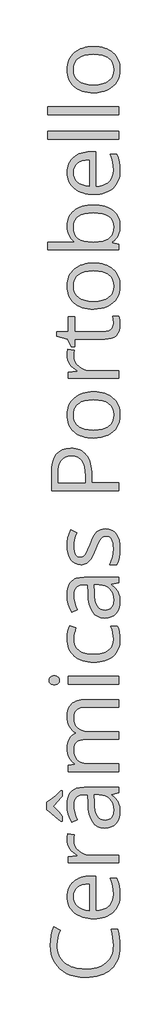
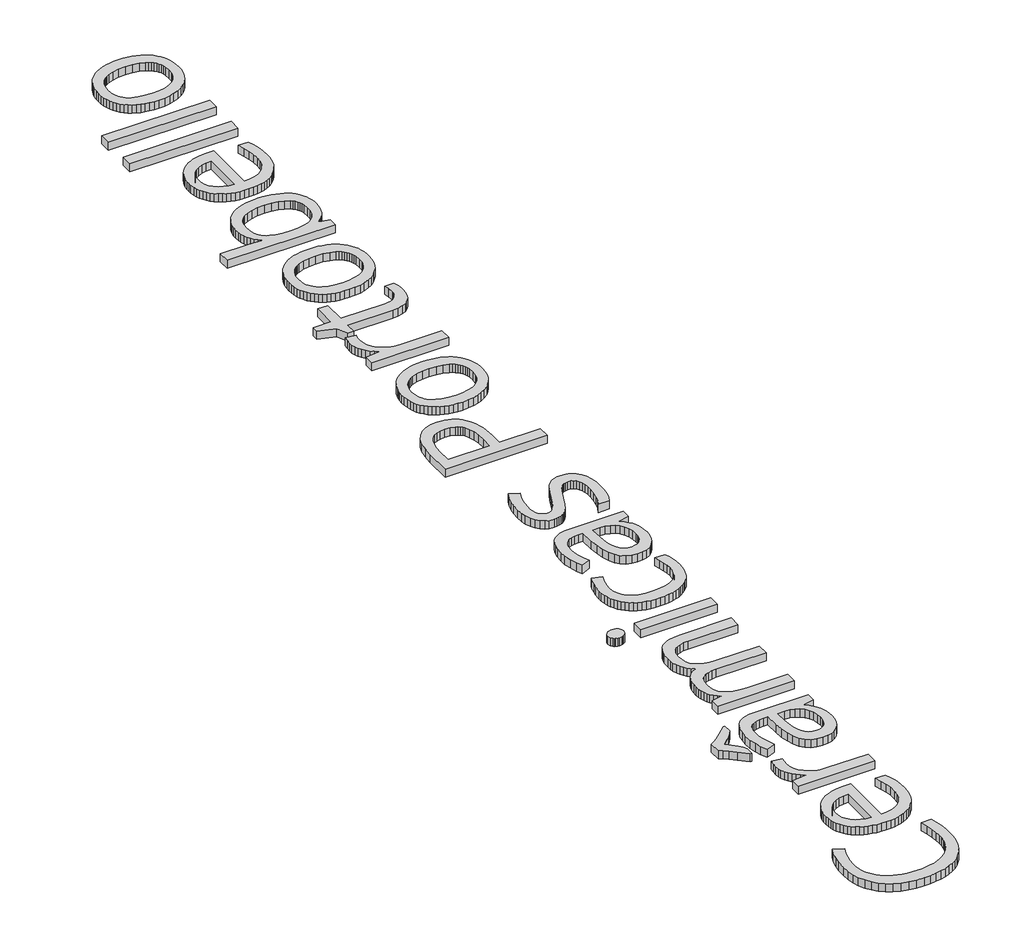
# One storey, part 2 of 3: 1 proxy.
"""IFC4 building model written with IfcOpenShell, lengths in millimetres."""

from ifc_helpers import new_model, si_unit, origin, origin_with_axes, place, context, project, spatial, polyline, outline, extrude, element, save

model = new_model("IFC4")

# Units and contexts
model_context = context("Model", 3, world=origin())
ifc_project = project(units=[si_unit("LENGTHUNIT", "METRE", prefix="MILLI")], contexts=[model_context])

# Site, building, storey
site = spatial("IfcSite", under=ifc_project)
building = spatial("IfcBuilding", under=site)
storey = spatial("IfcBuildingStorey", under=building, Name="PORTOBELLO - SHOWROOM", Elevation=0.0)

# Proxy
placement = place(None, origin())
element("IfcBuildingElementProxy", 1, Name="1200mm OpenSans", ObjectType="1200mm OpenSans", at=placement, inside=storey, context=model_context, shape_type="SweptSolid", body=[
    extrude(outline(polyline([(-25867.4892858, 8245.8483935), (-25865.3682385, 8197.6642832), (-25859.0050966, 8152.0828922), (-25848.3998601, 8109.1042207), (-25833.552529, 8068.7282685), (-25814.4631034, 8030.9550358), (-25791.1315831, 7995.7845224), (-25763.5579682, 7963.2167284), (-25731.7422587, 7933.2516538), (-25696.2365467, 7906.3794211), (-25657.592924, 7883.0901528), (-25615.8113907, 7863.3838488), (-25570.8919468, 7847.2605092), (-25522.8345922, 7834.7201339), (-25471.6393271, 7825.762723), (-25417.3061513, 7820.3882765), (-25359.835065, 7818.5967943), (-25300.8936112, 7820.3234902), (-25245.3942819, 7825.5035778), (-25193.3370773, 7834.1370572), (-25144.7219972, 7846.2239283), (-25099.5490416, 7861.7641912), (-25057.8182106, 7880.7578458), (-25019.5295042, 7903.2048922), (-24984.6829224, 7929.1053303), (-24953.6277478, 7958.200015), (-24926.7132632, 7990.2298009), (-24903.9394685, 8025.1946882), (-24885.3063637, 8063.0946768), (-24870.8139489, 8103.9297666), (-24860.4622241, 8147.6999578), (-24854.2511891, 8194.4052503), (-24852.1808442, 8244.0456441), (-24854.99764, 8309.1474305), (-24863.4480277, 8378.6208842), (-24877.5320071, 8452.466005), (-24897.2495783, 8530.682793), (-24780.4314195, 8530.682793), (-24761.3448106, 8464.6570975), (-24747.7115185, 8391.3302672), (-24739.5315433, 8310.7023019), (-24736.8048849, 8222.7732017), (-24739.342818, 8158.3249119), (-24746.9566172, 8097.6623958), (-24759.6462827, 8040.7856534), (-24777.4118143, 7987.6946846), (-24800.2532121, 7938.3894895), (-24828.1704761, 7892.8700681), (-24861.1636062, 7851.1364203), (-24899.2326026, 7813.1885462), (-24941.9774801, 7779.3869956), (-24988.9982537, 7750.0923185), (-25040.2949235, 7725.3045147), (-25095.8674894, 7705.0235844), (-25155.7159515, 7689.2495275), (-25219.8403097, 7677.9823439), (-25288.2405641, 7671.2220338), (-25360.9167146, 7668.9685971), (-25451.7527482, 7673.3064628), (-25536.774915, 7686.3200597), (-25615.9832152, 7708.009388), (-25689.3776487, 7738.3744476), (-25755.8202299, 7776.9307496), (-25814.1729734, 7823.1938052), (-25864.4358791, 7877.1636143), (-25906.608947, 7938.8401769), (-25939.9710774, 8007.2657824), (-25963.8011706, 8081.4827203), (-25978.0992265, 8161.4909905), (-25982.8652451, 8247.290593), (-25978.8766621, 8338.7801232), (-25966.9109132, 8424.3205805), (-25946.9679984, 8503.9119649), (-25919.0479176, 8577.5542764), (-25803.3114085, 8518.4240973), (-25831.3892298, 8450.2801714), (-25851.4448165, 8382.1362454), (-25863.4781685, 8313.9923195), (-25867.4892858, 8245.8483935)])), origin_with_axes(), (0.0, 0.0, 1.0), 100.0),
    extrude(outline(polyline([(-24736.8048849, 9153.7129731), (-24738.7315733, 9105.0894426), (-24744.5116384, 9059.0911659), (-24754.1450803, 9015.7181429), (-24767.631899, 8974.9703737), (-24784.9720944, 8936.8478582), (-24806.1656667, 8901.3505965), (-24831.2126156, 8868.4785886), (-24860.1129414, 8838.2318344), (-24892.4328573, 8811.1060901), (-24927.7385769, 8787.5971117), (-24966.0301001, 8767.7048992), (-25007.3074269, 8751.4294526), (-25051.5705574, 8738.7707719), (-25098.8194915, 8729.7288571), (-25149.0542292, 8724.3037082), (-25202.2747706, 8722.4953253), (-25256.0220528, 8724.1741356), (-25306.9356383, 8729.2105667), (-25355.0155272, 8737.6046184), (-25400.2617195, 8749.3562908), (-25442.6742151, 8764.4655839), (-25482.253014, 8782.9324977), (-25518.9981162, 8804.7570322), (-25552.9095218, 8829.9391874), (-25583.3731693, 8857.9494056), (-25609.7749971, 8888.2581293), (-25632.1150052, 8920.8653584), (-25650.3931937, 8955.7710929), (-25664.6095625, 8992.9753329), (-25674.7641117, 9032.4780784), (-25680.8568411, 9074.2793292), (-25682.887751, 9118.3790856), (-25681.0906352, 9159.7240155), (-25675.6992879, 9198.8493103), (-25666.713709, 9235.7549699), (-25654.1338986, 9270.4409944), (-25637.9598567, 9302.9073837), (-25618.1915832, 9333.1541379), (-25594.8290781, 9361.1812569), (-25567.8723416, 9386.9887408), (-25537.9692365, 9410.1428029), (-25505.767626, 9430.2096567), (-25471.26751, 9447.1893023), (-25434.4688887, 9461.0817396), (-25395.3717618, 9471.8869686), (-25353.9761296, 9479.6049893), (-25310.2819919, 9484.2358017), (-25264.2893487, 9485.7794059), (-25175.2335301, 9485.7794059), (-25175.2335301, 8864.1914253), (-25100.689844, 8870.6925902), (-25035.7007294, 8886.2300362), (-24980.2661865, 8910.8037635), (-24956.1318794, 8926.4792326), (-24934.3862152, 8944.413772), (-24915.1193313, 8964.4440075), (-24898.4213653, 8986.4065649), (-24872.7321869, 9036.1286458), (-24857.3186799, 9093.5800146), (-24852.1808442, 9158.7606713), (-24855.9891522, 9231.3889363), (-24867.4140763, 9303.6115827), (-24886.4556164, 9375.4286105), (-24913.1137727, 9446.8400196), (-24793.4112149, 9446.8400196), (-24767.4065553, 9376.3525195), (-24749.9649552, 9309.831068), (-24740.0949025, 9238.5323306), (-24736.8048849, 9153.7129731)]), holes=[polyline([(-25567.5117917, 9116.9368861), (-25562.9147808, 9065.4120558), (-25549.1237482, 9019.3630768), (-25526.1386938, 8978.7899489), (-25493.9596177, 8943.6926722), (-25453.6681694, 8914.6571403), (-25406.3459986, 8892.2692466), (-25351.9931053, 8876.5289912), (-25290.6094894, 8867.4363741), (-25290.6094894, 9339.3961576), (-25353.7507859, 9335.7906588), (-25409.0501226, 9324.9741626), (-25456.5074996, 9306.946669), (-25496.1229169, 9281.7081779), (-25527.3555496, 9249.7769798), (-25549.664573, 9211.6713651), (-25563.049987, 9167.3913339), (-25567.5117917, 9116.9368861)])]), origin_with_axes(), (0.0, 0.0, 1.0), 100.0),
    extrude(outline(polyline([(-25682.887751, 10132.9664275), (-25680.6343143, 10190.4741322), (-25673.8740042, 10241.852489), (-25555.253096, 10222.7433458), (-25564.4471178, 10169.5622395), (-25567.5117917, 10123.2315809), (-25561.8669327, 10069.9040013), (-25544.9323559, 10020.6100734), (-25516.7080612, 9975.3497972), (-25477.1940486, 9934.1231726), (-25429.2521827, 9899.8145988), (-25375.7443281, 9875.3084747), (-25316.6704849, 9860.6048002), (-25252.030653, 9855.7035753), (-24759.8800767, 9855.7035753), (-24759.8800767, 9719.4157234), (-25659.8125591, 9719.4157234), (-25659.8125591, 9831.9072837), (-25498.2862161, 9847.4109282), (-25498.2862161, 9853.900826), (-25540.087467, 9880.6040509), (-25576.7959509, 9909.8761937), (-25608.4116679, 9941.7172543), (-25634.9346179, 9976.1272328), (-25655.9141136, 10012.7005105), (-25670.8994677, 10051.0314689), (-25679.8906802, 10091.1201079), (-25682.887751, 10132.9664275)])), origin_with_axes(), (0.0, 0.0, 1.0), 100.0),
    extrude(outline(polyline([(-24759.8800767, 10972.3265312), (-24891.4807803, 10944.9247409), (-24891.4807803, 10938.0742933), (-24849.8823387, 10904.0361319), (-24815.5850321, 10870.0655736), (-24788.5888604, 10836.1626183), (-24768.8938236, 10802.3272662), (-24754.8549129, 10766.4187523), (-24744.8271196, 10726.2963118), (-24738.8104436, 10681.9599446), (-24736.8048849, 10633.4096508), (-24741.2779567, 10569.2993766), (-24754.6971723, 10512.535306), (-24777.0625316, 10463.1174391), (-24808.3740346, 10421.0457758), (-24847.933116, 10387.4470345), (-24895.0412103, 10363.4479336), (-24949.6983176, 10349.0484731), (-25011.9044378, 10344.2486529), (-25078.4540573, 10351.1554364), (-25136.5870907, 10371.8757869), (-25186.303538, 10406.4097044), (-25227.6033992, 10454.7571889), (-25260.4866743, 10516.9182404), (-25284.9533633, 10592.8928589), (-25301.0034662, 10682.6810444), (-25308.6369831, 10786.2827969), (-25313.6846813, 10940.9586923), (-25367.7671622, 10940.9586923), (-25415.46115, 10938.0742933), (-25456.5074996, 10929.4210964), (-25490.9062109, 10914.9991014), (-25518.6572839, 10894.8083086), (-25540.0311311, 10868.2628242), (-25555.2981648, 10834.7767548), (-25564.458385, 10794.3501003), (-25567.5117917, 10746.9828607), (-25563.1851932, 10687.9878878), (-25550.2053978, 10625.2972787), (-25528.5724054, 10558.9110334), (-25498.2862161, 10488.8291519), (-25603.566779, 10446.2842669), (-25636.6922985, 10516.8619045), (-25661.7955834, 10593.7491648), (-25677.6147091, 10673.9715115), (-25682.887751, 10754.5544081), (-25678.3808776, 10830.7543702), (-25664.8602573, 10896.3857143), (-25642.3258903, 10951.4484401), (-25627.6785517, 10975.0165713), (-25610.7777764, 10995.9425479), (-25591.3925872, 11014.322141), (-25569.2920067, 11030.2511217), (-25544.476035, 11043.72949), (-25516.944672, 11054.7572459), (-25453.7357725, 11069.4609204), (-25379.665308, 11074.3621452), (-24759.8800767, 11074.3621452), (-24759.8800767, 10972.3265312)]), holes=[polyline([(-24852.1808442, 10660.4508913), (-24856.5412442, 10721.6993009), (-24869.6224443, 10776.0071255), (-24891.4244444, 10823.374365), (-24921.9472445, 10863.8010195), (-24960.3120044, 10896.1378362), (-25005.6398838, 10919.2355625), (-25057.9308825, 10933.0941982), (-25117.1850006, 10937.7137434), (-25198.308722, 10937.7137434), (-25192.539924, 10798.9020424), (-25187.2218134, 10722.0823852), (-25177.0362795, 10656.7552551), (-25161.9833223, 10602.9206522), (-25142.0629419, 10560.5785765), (-25116.6216415, 10528.557241), (-25085.0059245, 10505.6848584), (-25047.215791, 10491.9614289), (-25003.2512408, 10487.3869524), (-24968.5032469, 10490.2375498), (-24938.1719888, 10498.7893421), (-24912.2574667, 10513.0423293), (-24890.7596806, 10532.9965113), (-24873.8814396, 10558.0659946), (-24861.8255533, 10587.6648857), (-24854.5920214, 10621.7931846), (-24852.1808442, 10660.4508913)])]), origin_with_axes(), (0.0, 0.0, 1.0), 100.0),
    extrude(outline(polyline([(-25794.6582115, 10462.5090112), (-25894.1699764, 10550.84373), (-25963.395552, 10608.1711597), (-26012.6106096, 10644.226147), (-26052.0908207, 10668.7435384), (-26052.0908207, 10804.6708404), (-26011.52896, 10829.3234379), (-25960.511153, 10867.2262433), (-25890.9250275, 10926.2212162), (-25794.6582115, 11014.1503165), (-25775.1885184, 11014.1503165), (-25775.1885184, 10916.8018508), (-25802.9057899, 10878.4483581), (-25838.8255709, 10835.4978545), (-25935.2726619, 10735.8058147), (-25837.5636464, 10635.3025377), (-25801.9593464, 10593.2308744), (-25775.1885184, 10556.6125279), (-25775.1885184, 10462.5090112), (-25794.6582115, 10462.5090112)])), origin_with_axes(), (0.0, 0.0, 1.0), 100.0),
    extrude(outline(polyline([(-24759.8800767, 12507.9084392), (-25350.4607683, 12507.9084392), (-25401.3321019, 12505.0240403), (-25445.420591, 12496.3708433), (-25482.7262357, 12481.9488484), (-25513.2490358, 12461.7580555), (-25536.9889915, 12435.4829835), (-25553.9461027, 12402.8081513), (-25564.1203695, 12363.7335589), (-25567.5117917, 12318.2592062), (-25562.9035136, 12258.6107366), (-25549.0786794, 12207.2999828), (-25526.0372891, 12164.3269449), (-25493.7793427, 12129.6916227), (-25451.9442903, 12103.0334665), (-25400.171582, 12083.9919264), (-25338.4612178, 12072.5670023), (-25266.8131978, 12068.7586942), (-24759.8800767, 12068.7586942), (-24759.8800767, 11932.1102925), (-25350.4607683, 11932.1102925), (-25401.3321019, 11929.2258935), (-25445.420591, 11920.5726965), (-25482.7262357, 11906.1507016), (-25513.2490358, 11885.9599088), (-25536.9889915, 11859.639768), (-25553.9461027, 11826.8297296), (-25564.1203695, 11787.5297935), (-25567.5117917, 11741.7399597), (-25562.6669028, 11681.6858715), (-25548.132236, 11630.2399115), (-25523.9077915, 11587.4020798), (-25508.1619025, 11569.211212), (-25489.9935691, 11553.1723762), (-25445.0600412, 11526.9874417), (-25387.7776801, 11508.2839171), (-25318.146486, 11497.0618023), (-25236.1664586, 11493.3210973), (-24759.8800767, 11493.3210973), (-24759.8800767, 11357.0332454), (-25659.8125591, 11357.0332454), (-25659.8125591, 11468.0826062), (-25544.4365998, 11490.0761485), (-25544.4365998, 11496.5660462), (-25575.2748811, 11518.0074964), (-25602.5301981, 11543.3924609), (-25626.2025507, 11572.7209396), (-25646.2919389, 11605.9929326), (-25662.3026067, 11642.2845307), (-25673.738798, 11680.671825), (-25680.6005127, 11721.1548154), (-25682.887751, 11763.7335019), (-25680.5216424, 11814.3569575), (-25673.4233168, 11860.4059365), (-25661.5927741, 11901.8804391), (-25645.0300143, 11938.7804651), (-25623.7350375, 11971.1060146), (-25597.7078435, 11998.8570877), (-25566.9484325, 12022.0336842), (-25531.4568044, 12040.6358042), (-25531.4568044, 12047.1257019), (-25564.6048583, 12069.5811986), (-25594.1023448, 12096.5661032), (-25619.9492638, 12128.0804155), (-25642.1456154, 12164.1241356), (-25659.9702997, 12203.7733544), (-25672.7022171, 12246.1041629), (-25680.3413675, 12291.1165611), (-25682.887751, 12338.8105489), (-25677.9527246, 12410.6163095), (-25663.1476454, 12472.7998954), (-25652.0438361, 12500.2833728), (-25638.4725135, 12525.3613065), (-25622.4336778, 12548.0336966), (-25603.9273288, 12568.3005429), (-25582.7055887, 12586.1731128), (-25558.5205792, 12601.6626733), (-25531.3723005, 12614.7692246), (-25501.2607526, 12625.4927665), (-25432.1478488, 12639.7908224), (-25351.181868, 12644.556841), (-24759.8800767, 12644.556841), (-24759.8800767, 12507.9084392)])), origin_with_axes(), (0.0, 0.0, 1.0), 100.0),
    extrude(outline(polyline([(-24759.8800767, 13058.4680949), (-24759.8800767, 12922.180243), (-25659.8125591, 12922.180243), (-25659.8125591, 13058.4680949), (-24759.8800767, 13058.4680949)])), origin_with_axes(), (0.0, 0.0, 1.0), 100.0),
    extrude(outline(polyline([(-25914.0002194, 12910.6426471), (-25936.2078381, 12912.0848466), (-25955.2381111, 12916.4114451), (-25971.0910383, 12923.6224425), (-25983.7666198, 12933.7178389), (-26000.3969827, 12959.6774298), (-26005.940437, 12991.4058186), (-26000.3068452, 13021.9624203), (-25983.4060699, 13048.0121486), (-25970.6178166, 13058.4230262), (-25954.7874238, 13065.8593673), (-25935.9148914, 13070.321172), (-25914.0002194, 13071.8084402), (-25892.0630131, 13070.321172), (-25873.1228776, 13065.8593673), (-25857.1798129, 13058.4230262), (-25844.233819, 13048.0121486), (-25827.0626313, 13021.9624203), (-25821.3389021, 12991.4058186), (-25827.0626313, 12959.6774298), (-25834.2172929, 12945.9765346), (-25844.233819, 12933.7178389), (-25857.1798129, 12923.6224425), (-25873.1228776, 12916.4114451), (-25892.0630131, 12912.0848466), (-25914.0002194, 12910.6426471)])), origin_with_axes(), (0.0, 0.0, 1.0), 100.0),
    extrude(outline(polyline([(-24736.8048849, 13728.3697585), (-24738.7118557, 13680.4560605), (-24744.4327681, 13635.3253569), (-24753.9676222, 13592.9776477), (-24767.3164179, 13553.4129327), (-24784.4791552, 13516.6312121), (-24805.4558341, 13482.6324858), (-24830.2464546, 13451.4167539), (-24858.8510168, 13422.9840163), (-24890.9427723, 13397.6328533), (-24926.1949727, 13375.6618455), (-24964.6076182, 13357.0709927), (-25006.1807086, 13341.8602949), (-25050.9142439, 13330.0297522), (-25098.8082243, 13321.5793646), (-25149.8626496, 13316.509132), (-25204.07752, 13314.8190544), (-25259.689521, 13316.5344831), (-25312.0509397, 13321.6807692), (-25361.1617759, 13330.2579127), (-25407.0220296, 13342.2659135), (-25449.6317009, 13357.7047717), (-25488.9907897, 13376.5744873), (-25525.0992961, 13398.8750603), (-25557.9572201, 13424.6064907), (-25587.2378132, 13453.5096332), (-25612.6143273, 13485.3253427), (-25634.0867623, 13520.0536191), (-25651.6551182, 13557.6944625), (-25665.3193951, 13598.2478728), (-25675.0795928, 13641.71385), (-25680.9357114, 13688.0923942), (-25682.887751, 13737.3835053), (-25679.5526646, 13802.9585134), (-25669.5474057, 13868.443384), (-25655.0352733, 13926.8073947), (-25638.1795668, 13971.0198228), (-25525.3274566, 13928.8354877), (-25541.867682, 13881.0175609), (-25555.433371, 13829.1434479), (-25564.4921865, 13778.3509846), (-25567.5117917, 13733.7780066), (-25561.8725663, 13668.7945256), (-25544.9548903, 13612.4755088), (-25516.7587635, 13564.820956), (-25477.284186, 13525.8308675), (-25426.5311579, 13495.505243), (-25364.499679, 13473.8440827), (-25291.1897494, 13460.8473865), (-25206.6013691, 13456.5151544), (-25125.9508694, 13460.7403483), (-25055.26056, 13473.4159297), (-24994.5304408, 13494.5418988), (-24943.7605118, 13524.1182556), (-24922.2965272, 13542.0358942), (-24903.6944072, 13561.9872594), (-24887.9541519, 13583.9723512), (-24875.0757611, 13607.9911697), (-24865.0592349, 13634.0437148), (-24857.9045734, 13662.1299865), (-24852.1808442, 13724.4037099), (-24855.2229837, 13781.7086053), (-24864.3494024, 13839.6895317), (-24879.5601001, 13898.3464891), (-24900.855077, 13957.6794775), (-24782.2341689, 13957.6794775), (-24762.3588571, 13909.1404509), (-24748.1622059, 13854.7424889), (-24739.6442151, 13794.4855914), (-24736.8048849, 13728.3697585)])), origin_with_axes(), (0.0, 0.0, 1.0), 100.0),
    extrude(outline(polyline([(-24759.8800767, 14733.5828037), (-24891.4807803, 14706.1810134), (-24891.4807803, 14699.3305658), (-24849.8823387, 14665.2924044), (-24815.5850321, 14631.321846), (-24788.5888604, 14597.4188908), (-24768.8938236, 14563.5835387), (-24754.8549129, 14527.6750248), (-24744.8271196, 14487.5525843), (-24738.8104436, 14443.2162171), (-24736.8048849, 14394.6659233), (-24741.2779567, 14330.5556491), (-24754.6971723, 14273.7915785), (-24777.0625316, 14224.3737115), (-24808.3740346, 14182.3020483), (-24847.933116, 14148.703307), (-24895.0412103, 14124.7042061), (-24949.6983176, 14110.3047456), (-25011.9044378, 14105.5049254), (-25078.4540573, 14112.4117089), (-25136.5870907, 14133.1320594), (-25186.303538, 14167.6659769), (-25227.6033992, 14216.0134614), (-25260.4866743, 14278.1745129), (-25284.9533633, 14354.1491314), (-25301.0034662, 14443.9373169), (-25308.6369831, 14547.5390694), (-25313.6846813, 14702.2149648), (-25367.7671622, 14702.2149648), (-25415.46115, 14699.3305658), (-25456.5074996, 14690.6773688), (-25490.9062109, 14676.2553739), (-25518.6572839, 14656.0645811), (-25540.0311311, 14629.5190967), (-25555.2981648, 14596.0330272), (-25564.458385, 14555.6063728), (-25567.5117917, 14508.2391332), (-25563.1851932, 14449.2441603), (-25550.2053978, 14386.5535512), (-25528.5724054, 14320.1673059), (-25498.2862161, 14250.0854243), (-25603.566779, 14207.5405394), (-25636.6922985, 14278.1181769), (-25661.7955834, 14355.0054373), (-25677.6147091, 14435.227784), (-25682.887751, 14515.8106806), (-25678.3808776, 14592.0106427), (-25664.8602573, 14657.6419867), (-25642.3258903, 14712.7047126), (-25627.6785517, 14736.2728438), (-25610.7777764, 14757.1988204), (-25591.3925872, 14775.5784135), (-25569.2920067, 14791.5073942), (-25544.476035, 14804.9857625), (-25516.944672, 14816.0135184), (-25453.7357725, 14830.7171928), (-25379.665308, 14835.6184177), (-24759.8800767, 14835.6184177), (-24759.8800767, 14733.5828037)]), holes=[polyline([(-24852.1808442, 14421.7071638), (-24856.5412442, 14482.9555734), (-24869.6224443, 14537.263398), (-24891.4244444, 14584.6306375), (-24921.9472445, 14625.057292), (-24960.3120044, 14657.3941087), (-25005.6398838, 14680.4918349), (-25057.9308825, 14694.3504707), (-25117.1850006, 14698.9700159), (-25198.308722, 14698.9700159), (-25192.539924, 14560.1583149), (-25187.2218134, 14483.3386576), (-25177.0362795, 14418.0115276), (-25161.9833223, 14364.1769247), (-25142.0629419, 14321.834849), (-25116.6216415, 14289.8135134), (-25085.0059245, 14266.9411309), (-25047.215791, 14253.2177014), (-25003.2512408, 14248.6432249), (-24968.5032469, 14251.4938223), (-24938.1719888, 14260.0456146), (-24912.2574667, 14274.2986017), (-24890.7596806, 14294.2527838), (-24873.8814396, 14319.3222671), (-24861.8255533, 14348.9211582), (-24854.5920214, 14383.0494571), (-24852.1808442, 14421.7071638)])]), origin_with_axes(), (0.0, 0.0, 1.0), 100.0),
    extrude(outline(polyline([(-25002.5301411, 15703.1014115), (-24942.3746483, 15697.2086745), (-24915.0432778, 15689.8427533), (-24889.5428247, 15679.5304636), (-24865.8732889, 15666.2718054), (-24844.0346705, 15650.0667787), (-24824.0269693, 15630.9153835), (-24805.8501855, 15608.8176198), (-24775.6428665, 15556.9322397), (-24754.06621, 15495.559891), (-24741.1202162, 15424.7005738), (-24736.8048849, 15344.3542881), (-24740.3653149, 15259.3321213), (-24751.0466049, 15184.1800072), (-24768.8487548, 15118.8979458), (-24793.7717648, 15063.4859373), (-24921.4064197, 15063.4859373), (-24892.6976361, 15131.1791759), (-24870.7491626, 15203.7398378), (-24856.8229238, 15277.2920118), (-24852.1808442, 15347.9597869), (-24854.321609, 15398.740983), (-24860.7439036, 15443.2801595), (-24871.447728, 15481.5773163), (-24886.4330821, 15513.6324534), (-24905.8126377, 15538.9498148), (-24929.6990668, 15557.0336443), (-24958.0923693, 15567.883942), (-24990.9925452, 15571.500708), (-25016.704258, 15568.6275762), (-25040.4780152, 15560.0081808), (-25062.3138169, 15545.6425218), (-25082.211663, 15525.5305992), (-25101.9968372, 15497.1034952), (-25123.4946234, 15457.7922918), (-25171.6280314, 15346.5175874), (-25216.1559407, 15238.2624881), (-25254.5545022, 15166.6032009), (-25292.2770326, 15120.0471985), (-25312.92978, 15101.8732315), (-25334.7768488, 15087.1019539), (-25358.3365296, 15075.6657626), (-25384.1271127, 15067.4970546), (-25412.1485981, 15062.5958298), (-25442.4009859, 15060.9620881), (-25495.1764735, 15066.5956799), (-25542.0930257, 15083.4964552), (-25583.1506424, 15111.664414), (-25618.3493238, 15151.0995563), (-25646.5848857, 15200.3596827), (-25666.7531442, 15258.0025936), (-25678.8540993, 15324.028289), (-25682.887751, 15398.436769), (-25679.147046, 15471.065034), (-25667.9249313, 15542.9271305), (-25649.2214066, 15614.0230586), (-25623.0364721, 15684.3528181), (-25511.6265614, 15635.3180354), (-25536.0763497, 15568.616309), (-25553.5404841, 15505.1595314), (-25564.0189648, 15444.9477026), (-25567.5117917, 15387.9808227), (-25565.5851033, 15342.1233858), (-25559.8050382, 15302.2600905), (-25550.1715963, 15268.3909368), (-25536.6847776, 15240.5159248), (-25519.7952695, 15218.7477262), (-25499.9537593, 15203.1990129), (-25477.160247, 15193.869785), (-25451.4147327, 15190.7600423), (-25417.3878384, 15195.4021219), (-25388.8593297, 15209.3283608), (-25363.7109761, 15233.6204085), (-25339.8245471, 15269.3599146), (-25311.2960384, 15329.8421557), (-25272.2214459, 15428.3624085), (-25242.6112876, 15502.4216058), (-25212.9109918, 15563.4334046), (-25183.1205586, 15611.3978048), (-25153.2399879, 15646.3148065), (-25121.3763929, 15671.1589462), (-25085.6368868, 15688.9047603), (-25046.0214695, 15699.5522487), (-25002.5301411, 15703.1014115)])), origin_with_axes(), (0.0, 0.0, 1.0), 100.0),
    extrude(outline(polyline([(-25616.1860245, 17148.1853015), (-25572.765116, 17146.2360787), (-25531.9187589, 17140.3884105), (-25493.6469533, 17130.6422967), (-25457.9496991, 17116.9977375), (-25424.8269964, 17099.4547327), (-25394.278845, 17078.0132825), (-25366.3052451, 17052.6733867), (-25340.9061967, 17023.4350455), (-25318.3014097, 16990.5630376), (-25298.7105944, 16954.3221418), (-25282.1337506, 16914.7123581), (-25268.5708785, 16871.7336865), (-25258.0219779, 16825.3861271), (-25250.4870489, 16775.6696798), (-25245.9660915, 16722.5843447), (-25244.4591057, 16666.1301216), (-25244.4591057, 16524.4340216), (-24759.8800767, 16524.4340216), (-24759.8800767, 16384.9012209), (-25959.7900532, 16384.9012209), (-25959.7900532, 16697.1374107), (-25954.4212403, 16802.8517601), (-25938.3148014, 16894.4708629), (-25911.4707367, 16971.9947191), (-25873.8890461, 17035.4233288), (-25825.5697295, 17084.7566918), (-25766.5127871, 17119.9948083), (-25696.7182187, 17141.1376782), (-25616.1860245, 17148.1853015)]), holes=[polyline([(-25359.835065, 16524.4340216), (-25359.835065, 16650.6264771), (-25363.5532356, 16737.3837902), (-25374.7077472, 16811.2514454), (-25393.2986001, 16872.2294426), (-25419.325794, 16920.3177819), (-25435.3251946, 16939.8381773), (-25453.5780319, 16956.7558534), (-25474.0843059, 16971.0708101), (-25496.8440166, 16982.7830473), (-25549.1237482, 16998.3993637), (-25610.4172265, 17003.6048025), (-25665.7728992, 16998.7035777), (-25713.5795589, 16983.9999032), (-25753.8372056, 16959.493779), (-25786.5458394, 16925.1852052), (-25811.8632008, 16880.5333569), (-25829.9470303, 16824.9974093), (-25840.7973281, 16758.5773624), (-25844.414094, 16681.2732163), (-25844.414094, 16524.4340216), (-25359.835065, 16524.4340216)])]), origin_with_axes(), (0.0, 0.0, 1.0), 100.0),
    extrude(outline(polyline([(-25210.5674177, 18155.5616459), (-25156.301845, 18153.8293165), (-25105.0953127, 18148.6323281), (-25056.9478207, 18139.9706807), (-25011.8593691, 18127.8443745), (-24969.8299577, 18112.2534093), (-24930.8595867, 18093.1977851), (-24894.948256, 18070.6775021), (-24862.0959657, 18044.6925601), (-24832.7308686, 18015.6598449), (-24807.2811178, 17983.9962424), (-24785.7467133, 17949.7017526), (-24768.1276551, 17912.7763754), (-24754.4239431, 17873.2201108), (-24744.6355774, 17831.0329589), (-24738.762558, 17786.2149196), (-24736.8048849, 17738.765993), (-24740.3991164, 17680.0752341), (-24751.1818111, 17624.7871645), (-24769.1529688, 17572.9017844), (-24794.3125896, 17524.4190937), (-24826.1874518, 17480.3080702), (-24864.3043336, 17441.5376917), (-24908.6632352, 17408.1079582), (-24959.2641564, 17380.0188696), (-25015.2620585, 17357.7774494), (-25075.8119027, 17341.8907206), (-25140.9136891, 17332.3586833), (-25210.5674177, 17329.1813376), (-25264.8217231, 17330.8995831), (-25315.9944539, 17336.0543195), (-25364.08561, 17344.645547), (-25409.0951914, 17356.6732654), (-25451.023198, 17372.1374748), (-25489.86963, 17391.0381751), (-25525.6344873, 17413.3753665), (-25558.3177699, 17439.1490488), (-25587.5138592, 17467.9761378), (-25612.8171366, 17499.4735494), (-25634.2276021, 17533.6412834), (-25651.7452557, 17570.4793399), (-25665.3700974, 17609.9877189), (-25675.1021272, 17652.1664205), (-25680.941345, 17697.0154445), (-25682.887751, 17744.534791), (-25680.8962763, 17790.4682814), (-25674.9218522, 17833.984961), (-25664.9644788, 17875.0848297), (-25651.024156, 17913.7678875), (-25633.1008838, 17950.0341345), (-25611.1946622, 17983.8835706), (-25585.3054913, 18015.3161958), (-25555.433371, 18044.3320102), (-25522.1641948, 18070.4014561), (-25486.0838564, 18092.9949758), (-25447.1923556, 18112.1125695), (-25405.4896926, 18127.754237), (-25360.9758673, 18139.9199784), (-25313.6508797, 18148.6097937), (-25263.5147298, 18153.8236829), (-25210.5674177, 18155.5616459)]), holes=[polyline([(-25211.6490673, 17470.8774376), (-25129.0831464, 17475.1815017), (-25056.9731719, 17488.093694), (-24995.3191436, 17509.6140145), (-24968.4131094, 17523.6022229), (-24944.1210617, 17539.7424633), (-24922.5725732, 17557.9671326), (-24903.8972165, 17578.2086278), (-24888.0949916, 17600.4669489), (-24875.1658986, 17624.7420958), (-24865.1099373, 17651.0340685), (-24857.9271078, 17679.3428671), (-24852.1808442, 17742.0109419), (-24857.9045734, 17804.701551), (-24865.0592349, 17833.0385176), (-24875.0757611, 17859.3699255), (-24887.9541519, 17883.6957747), (-24903.6944072, 17906.0160652), (-24922.2965272, 17926.3307971), (-24943.7605118, 17944.6399704), (-24967.9793228, 17960.8647146), (-24994.8459219, 17974.9261597), (-25056.5224845, 17996.559152), (-25128.7901997, 18009.5389475), (-25211.6490673, 18013.8655459), (-25293.6628962, 18009.5389475), (-25365.1982443, 17996.559152), (-25426.2551119, 17974.9261597), (-25452.8541154, 17960.8647146), (-25476.8334987, 17944.6399704), (-25498.0862236, 17926.3026292), (-25516.5052519, 17905.9033934), (-25532.0905835, 17883.4422631), (-25544.8422184, 17858.9192381), (-25554.7601567, 17832.3343186), (-25561.8443984, 17803.6875045), (-25567.5117917, 17740.2081925), (-25561.9232687, 17677.5964537), (-25554.9376149, 17649.358075), (-25545.1576996, 17623.1646901), (-25532.5835228, 17599.016299), (-25517.2150844, 17576.9129017), (-25499.0523846, 17556.8544982), (-25478.0954233, 17538.8410886), (-25454.3723683, 17522.9121079), (-25427.9113878, 17509.1069913), (-25366.77565, 17487.8683503), (-25294.6882099, 17475.1251658), (-25211.6490673, 17470.8774376)])]), origin_with_axes(), (0.0, 0.0, 1.0), 100.0),
    extrude(outline(polyline([(-25682.887751, 18809.2385652), (-25680.6343143, 18866.7462699), (-25673.8740042, 18918.1246268), (-25555.253096, 18899.0154835), (-25564.4471178, 18845.8343773), (-25567.5117917, 18799.5037186), (-25561.8669327, 18746.176139), (-25544.9323559, 18696.8822111), (-25516.7080612, 18651.6219349), (-25477.1940486, 18610.3953104), (-25429.2521827, 18576.0867366), (-25375.7443281, 18551.5806124), (-25316.6704849, 18536.8769379), (-25252.030653, 18531.9757131), (-24759.8800767, 18531.9757131), (-24759.8800767, 18395.6878612), (-25659.8125591, 18395.6878612), (-25659.8125591, 18508.1794215), (-25498.2862161, 18523.683066), (-25498.2862161, 18530.1729637), (-25540.087467, 18556.8761887), (-25576.7959509, 18586.1483314), (-25608.4116679, 18617.9893921), (-25634.9346179, 18652.3993706), (-25655.9141136, 18688.9726483), (-25670.8994677, 18727.3036066), (-25679.8906802, 18767.3922456), (-25682.887751, 18809.2385652)])), origin_with_axes(), (0.0, 0.0, 1.0), 100.0),
    extrude(outline(polyline([(-24852.1808442, 19381.7917631), (-24857.5890923, 19452.4595382), (-24868.7661383, 19506.5420191), (-24762.043376, 19506.5420191), (-24752.1282545, 19478.8698164), (-24744.0158823, 19440.5613924), (-24738.6076343, 19399.1882945), (-24736.8048849, 19362.32207), (-24741.0864146, 19300.4652325), (-24753.9310038, 19246.8559733), (-24775.3386525, 19201.4942924), (-24805.3093607, 19164.3801899), (-24843.8431284, 19135.5136657), (-24890.9399555, 19114.8947198), (-24946.5998421, 19102.5233523), (-25010.8227882, 19098.3995632), (-25544.4365998, 19098.3995632), (-25544.4365998, 18967.8805092), (-25611.859426, 18967.8805092), (-25670.2685054, 19097.6784634), (-25867.4892858, 19155.7269929), (-25867.4892858, 19235.0479649), (-25659.8125591, 19235.0479649), (-25659.8125591, 19500.0521214), (-25544.4365998, 19500.0521214), (-25544.4365998, 19235.0479649), (-25019.1154352, 19235.0479649), (-24981.0886909, 19237.4929437), (-24947.7716292, 19244.8278802), (-24919.1642502, 19257.0527743), (-24895.266554, 19274.1676261), (-24876.4165559, 19295.5640076), (-24862.9522716, 19320.633491), (-24854.873701, 19349.3760761), (-24852.1808442, 19381.7917631)])), origin_with_axes(), (0.0, 0.0, 1.0), 100.0),
    extrude(outline(polyline([(-25210.5674177, 20463.0808315), (-25156.301845, 20461.348502), (-25105.0953127, 20456.1515136), (-25056.9478207, 20447.4898663), (-25011.8593691, 20435.36356), (-24969.8299577, 20419.7725948), (-24930.8595867, 20400.7169707), (-24894.948256, 20378.1966876), (-24862.0959657, 20352.2117456), (-24832.7308686, 20323.1790305), (-24807.2811178, 20291.515428), (-24785.7467133, 20257.2209381), (-24768.1276551, 20220.2955609), (-24754.4239431, 20180.7392964), (-24744.6355774, 20138.5521445), (-24738.762558, 20093.7341052), (-24736.8048849, 20046.2851786), (-24740.3991164, 19987.5944196), (-24751.1818111, 19932.3063501), (-24769.1529688, 19880.42097), (-24794.3125896, 19831.9382793), (-24826.1874518, 19787.8272558), (-24864.3043336, 19749.0568773), (-24908.6632352, 19715.6271437), (-24959.2641564, 19687.5380552), (-25015.2620585, 19665.2966349), (-25075.8119027, 19649.4099062), (-25140.9136891, 19639.8778689), (-25210.5674177, 19636.7005232), (-25264.8217231, 19638.4187686), (-25315.9944539, 19643.5735051), (-25364.08561, 19652.1647325), (-25409.0951914, 19664.192451), (-25451.023198, 19679.6566603), (-25489.86963, 19698.5573607), (-25525.6344873, 19720.894552), (-25558.3177699, 19746.6682343), (-25587.5138592, 19775.4953234), (-25612.8171366, 19806.9927349), (-25634.2276021, 19841.160469), (-25651.7452557, 19877.9985255), (-25665.3700974, 19917.5069045), (-25675.1021272, 19959.685606), (-25680.941345, 20004.5346301), (-25682.887751, 20052.0539766), (-25680.8962763, 20097.987467), (-25674.9218522, 20141.5041466), (-25664.9644788, 20182.6040153), (-25651.024156, 20221.2870731), (-25633.1008838, 20257.55332), (-25611.1946622, 20291.4027561), (-25585.3054913, 20322.8353814), (-25555.433371, 20351.8511958), (-25522.1641948, 20377.9206416), (-25486.0838564, 20400.5141614), (-25447.1923556, 20419.631755), (-25405.4896926, 20435.2734226), (-25360.9758673, 20447.439164), (-25313.6508797, 20456.1289793), (-25263.5147298, 20461.3428684), (-25210.5674177, 20463.0808315)]), holes=[polyline([(-25211.6490673, 19778.3966231), (-25129.0831464, 19782.7006873), (-25056.9731719, 19795.6128796), (-24995.3191436, 19817.1332001), (-24968.4131094, 19831.1214084), (-24944.1210617, 19847.2616488), (-24922.5725732, 19865.4863182), (-24903.8972165, 19885.7278134), (-24888.0949916, 19907.9861344), (-24875.1658986, 19932.2612813), (-24865.1099373, 19958.5532541), (-24857.9271078, 19986.8620527), (-24852.1808442, 20049.5301275), (-24857.9045734, 20112.2207366), (-24865.0592349, 20140.5577031), (-24875.0757611, 20166.889111), (-24887.9541519, 20191.2149603), (-24903.6944072, 20213.5352508), (-24922.2965272, 20233.8499827), (-24943.7605118, 20252.1591559), (-24967.9793228, 20268.3839002), (-24994.8459219, 20282.4453452), (-25056.5224845, 20304.0783376), (-25128.7901997, 20317.058133), (-25211.6490673, 20321.3847315), (-25293.6628962, 20317.058133), (-25365.1982443, 20304.0783376), (-25426.2551119, 20282.4453452), (-25452.8541154, 20268.3839002), (-25476.8334987, 20252.1591559), (-25498.0862236, 20233.8218148), (-25516.5052519, 20213.422579), (-25532.0905835, 20190.9614486), (-25544.8422184, 20166.4384237), (-25554.7601567, 20139.8535042), (-25561.8443984, 20111.2066901), (-25567.5117917, 20047.7273781), (-25561.9232687, 19985.1156393), (-25554.9376149, 19956.8772605), (-25545.1576996, 19930.6838756), (-25532.5835228, 19906.5354846), (-25517.2150844, 19884.4320873), (-25499.0523846, 19864.3736838), (-25478.0954233, 19846.3602742), (-25454.3723683, 19830.4312935), (-25427.9113878, 19816.6261768), (-25366.77565, 19795.3875359), (-25294.6882099, 19782.6443513), (-25211.6490673, 19778.3966231)])]), origin_with_axes(), (0.0, 0.0, 1.0), 100.0),
    extrude(outline(polyline([(-25682.887751, 21124.3292981), (-25680.9638794, 21167.8741456), (-25675.1922646, 21208.9120448), (-25665.5729067, 21247.4429957), (-25652.1058056, 21283.4669982), (-25634.7909613, 21316.9840524), (-25613.6283739, 21347.9941582), (-25588.6180432, 21376.4973157), (-25559.7599694, 21402.4935249), (-25527.3865344, 21425.689839), (-25491.83012, 21445.7933112), (-25453.0907262, 21462.8039415), (-25411.1683531, 21476.72173), (-25366.0630007, 21487.5466766), (-25317.7746689, 21495.2787812), (-25266.3033578, 21499.9180441), (-25211.6490673, 21501.464465), (-25156.8849218, 21499.9039601), (-25105.2643205, 21495.2224453), (-25056.7872634, 21487.4199207), (-25011.4537505, 21476.4963863), (-24969.2637817, 21462.451842), (-24930.2173572, 21445.286288), (-24894.314477, 21424.999724), (-24861.5551409, 21401.5921502), (-24832.3167996, 21375.4184829), (-24806.9769039, 21346.8336383), (-24785.5354536, 21315.8376165), (-24767.9924489, 21282.4304173), (-24754.3478896, 21246.6120409), (-24744.6017759, 21208.3824872), (-24738.7541076, 21167.7417562), (-24736.8048849, 21124.689848), (-24738.8667795, 21081.2999242), (-24745.0524632, 21039.8254217), (-24755.3619362, 21000.2663403), (-24769.7951982, 20962.6226802), (-24788.5099901, 20927.435266), (-24811.6640522, 20895.2449227), (-24839.2573847, 20866.0516502), (-24871.2899874, 20839.8554485), (-24871.2899874, 20829.7600521), (-24759.8800767, 20800.9160623), (-24759.8800767, 20703.2070467), (-26029.0156288, 20703.2070467), (-26029.0156288, 20839.4948986), (-25727.9564851, 20839.4948986), (-25631.869944, 20837.8724242), (-25546.2393492, 20833.0050009), (-25546.2393492, 20839.4948986), (-25578.2663184, 20865.0038021), (-25606.023025, 20893.3971046), (-25629.509469, 20924.6748061), (-25648.7256505, 20958.8369065), (-25663.6715695, 20995.8834059), (-25674.3472259, 21035.8143043), (-25680.7526197, 21078.6296017), (-25682.887751, 21124.3292981)]), holes=[polyline([(-25567.5117917, 21105.2201549), (-25562.4190247, 21039.4986734), (-25547.1407239, 20983.669779), (-25535.6819982, 20959.465052), (-25521.6768891, 20937.7334718), (-25505.1253965, 20918.4750383), (-25486.0275205, 20901.6897517), (-25463.9156728, 20887.112833), (-25438.3222654, 20874.4795035), (-25376.6907715, 20855.0436119), (-25301.1330388, 20843.382077), (-25211.6490673, 20839.4948986), (-25121.9059505, 20843.4947488), (-25045.931332, 20855.4942992), (-24983.7252118, 20875.49355), (-24957.7853385, 20888.493063), (-24935.2875898, 20903.4925011), (-24915.8094463, 20920.6946735), (-24898.9283886, 20940.3023896), (-24884.6444167, 20962.3156494), (-24872.9575306, 20986.7344529), (-24857.3750158, 21042.7886909), (-24852.1808442, 21108.4651037), (-24858.005978, 21168.034703), (-24865.2873954, 21194.7689127), (-24875.4813797, 21219.4693958), (-24888.5879309, 21242.1361522), (-24904.6070491, 21262.7691821), (-24923.5387342, 21281.3684853), (-24945.3829863, 21297.9340618), (-24997.0655571, 21325.14431), (-25058.9111275, 21344.5802016), (-25130.9196973, 21356.2417366), (-25213.0912668, 21360.1289149), (-25296.8177075, 21356.2417366), (-25369.1642929, 21344.5802016), (-25430.131023, 21325.14431), (-25479.7178977, 21297.9340618), (-25500.2945916, 21281.3177829), (-25518.1277263, 21262.5663728), (-25533.2173018, 21241.6798313), (-25545.5633182, 21218.6581586), (-25555.1657753, 21193.5013546), (-25562.0246733, 21166.2094193), (-25567.5117917, 21105.2201549)])]), origin_with_axes(), (0.0, 0.0, 1.0), 100.0),
    extrude(outline(polyline([(-24736.8048849, 22121.970796), (-24738.7315733, 22073.3472655), (-24744.5116384, 22027.3489888), (-24754.1450803, 21983.9759658), (-24767.631899, 21943.2281966), (-24784.9720944, 21905.1056811), (-24806.1656667, 21869.6084194), (-24831.2126156, 21836.7364115), (-24860.1129414, 21806.4896573), (-24892.4328573, 21779.363913), (-24927.7385769, 21755.8549346), (-24966.0301001, 21735.9627221), (-25007.3074269, 21719.6872755), (-25051.5705574, 21707.0285948), (-25098.8194915, 21697.98668), (-25149.0542292, 21692.5615311), (-25202.2747706, 21690.7531482), (-25256.0220528, 21692.4319585), (-25306.9356383, 21697.4683896), (-25355.0155272, 21705.8624413), (-25400.2617195, 21717.6141137), (-25442.6742151, 21732.7234068), (-25482.253014, 21751.1903206), (-25518.9981162, 21773.0148551), (-25552.9095218, 21798.1970103), (-25583.3731693, 21826.2072285), (-25609.7749971, 21856.5159522), (-25632.1150052, 21889.1231813), (-25650.3931937, 21924.0289159), (-25664.6095625, 21961.2331559), (-25674.7641117, 22000.7359013), (-25680.8568411, 22042.5371522), (-25682.887751, 22086.6369085), (-25681.0906352, 22127.9818384), (-25675.6992879, 22167.1071332), (-25666.713709, 22204.0127928), (-25654.1338986, 22238.6988173), (-25637.9598567, 22271.1652066), (-25618.1915832, 22301.4119608), (-25594.8290781, 22329.4390798), (-25567.8723416, 22355.2465637), (-25537.9692365, 22378.4006258), (-25505.767626, 22398.4674797), (-25471.26751, 22415.4471252), (-25434.4688887, 22429.3395625), (-25395.3717618, 22440.1447915), (-25353.9761296, 22447.8628122), (-25310.2819919, 22452.4936246), (-25264.2893487, 22454.0372288), (-25175.2335301, 22454.0372288), (-25175.2335301, 21832.4492482), (-25100.689844, 21838.9504131), (-25035.7007294, 21854.4878592), (-24980.2661865, 21879.0615864), (-24956.1318794, 21894.7370555), (-24934.3862152, 21912.6715949), (-24915.1193313, 21932.7018304), (-24898.4213653, 21954.6643879), (-24872.7321869, 22004.3864687), (-24857.3186799, 22061.8378375), (-24852.1808442, 22127.0184942), (-24855.9891522, 22199.6467592), (-24867.4140763, 22271.8694056), (-24886.4556164, 22343.6864334), (-24913.1137727, 22415.0978425), (-24793.4112149, 22415.0978425), (-24767.4065553, 22344.6103424), (-24749.9649552, 22278.0888909), (-24740.0949025, 22206.7901536), (-24736.8048849, 22121.970796)]), holes=[polyline([(-25567.5117917, 22085.194709), (-25562.9147808, 22033.6698787), (-25549.1237482, 21987.6208997), (-25526.1386938, 21947.0477718), (-25493.9596177, 21911.9504951), (-25453.6681694, 21882.9149632), (-25406.3459986, 21860.5270695), (-25351.9931053, 21844.7868141), (-25290.6094894, 21835.694197), (-25290.6094894, 22307.6539805), (-25353.7507859, 22304.0484817), (-25409.0501226, 22293.2319855), (-25456.5074996, 22275.2044919), (-25496.1229169, 22249.9660008), (-25527.3555496, 22218.0348027), (-25549.664573, 22179.929188), (-25563.049987, 22135.6491568), (-25567.5117917, 22085.194709)])]), origin_with_axes(), (0.0, 0.0, 1.0), 100.0),
    extrude(outline(polyline([(-24759.8800767, 22819.2742499), (-24759.8800767, 22682.986398), (-26029.0156288, 22682.986398), (-26029.0156288, 22819.2742499), (-24759.8800767, 22819.2742499)])), origin_with_axes(), (0.0, 0.0, 1.0), 100.0),
    extrude(outline(polyline([(-24759.8800767, 23257.7028951), (-24759.8800767, 23121.4150432), (-26029.0156288, 23121.4150432), (-26029.0156288, 23257.7028951), (-24759.8800767, 23257.7028951)])), origin_with_axes(), (0.0, 0.0, 1.0), 100.0),
    extrude(outline(polyline([(-25210.5674177, 24339.7130633), (-25156.301845, 24337.9807338), (-25105.0953127, 24332.7837454), (-25056.9478207, 24324.1220981), (-25011.8593691, 24311.9957918), (-24969.8299577, 24296.4048266), (-24930.8595867, 24277.3492024), (-24894.948256, 24254.8289194), (-24862.0959657, 24228.8439774), (-24832.7308686, 24199.8112622), (-24807.2811178, 24168.1476597), (-24785.7467133, 24133.8531699), (-24768.1276551, 24096.9277927), (-24754.4239431, 24057.3715281), (-24744.6355774, 24015.1843762), (-24738.762558, 23970.366337), (-24736.8048849, 23922.9174104), (-24740.3991164, 23864.2266514), (-24751.1818111, 23808.9385818), (-24769.1529688, 23757.0532017), (-24794.3125896, 23708.570511), (-24826.1874518, 23664.4594875), (-24864.3043336, 23625.689109), (-24908.6632352, 23592.2593755), (-24959.2641564, 23564.170287), (-25015.2620585, 23541.9288667), (-25075.8119027, 23526.0421379), (-25140.9136891, 23516.5101007), (-25210.5674177, 23513.3327549), (-25264.8217231, 23515.0510004), (-25315.9944539, 23520.2057369), (-25364.08561, 23528.7969643), (-25409.0951914, 23540.8246827), (-25451.023198, 23556.2888921), (-25489.86963, 23575.1895925), (-25525.6344873, 23597.5267838), (-25558.3177699, 23623.3004661), (-25587.5138592, 23652.1275551), (-25612.8171366, 23683.6249667), (-25634.2276021, 23717.7927007), (-25651.7452557, 23754.6307573), (-25665.3700974, 23794.1391363), (-25675.1021272, 23836.3178378), (-25680.941345, 23881.1668618), (-25682.887751, 23928.6862083), (-25680.8962763, 23974.6196987), (-25674.9218522, 24018.1363783), (-25664.9644788, 24059.236247), (-25651.024156, 24097.9193048), (-25633.1008838, 24134.1855518), (-25611.1946622, 24168.0349879), (-25585.3054913, 24199.4676131), (-25555.433371, 24228.4834275), (-25522.1641948, 24254.5528734), (-25486.0838564, 24277.1463931), (-25447.1923556, 24296.2639868), (-25405.4896926, 24311.9056543), (-25360.9758673, 24324.0713957), (-25313.6508797, 24332.761211), (-25263.5147298, 24337.9751002), (-25210.5674177, 24339.7130633)]), holes=[polyline([(-25211.6490673, 23655.0288549), (-25129.0831464, 23659.332919), (-25056.9731719, 23672.2451113), (-24995.3191436, 23693.7654319), (-24968.4131094, 23707.7536402), (-24944.1210617, 23723.8938806), (-24922.5725732, 23742.11855), (-24903.8972165, 23762.3600452), (-24888.0949916, 23784.6183662), (-24875.1658986, 23808.8935131), (-24865.1099373, 23835.1854859), (-24857.9271078, 23863.4942845), (-24852.1808442, 23926.1623592), (-24857.9045734, 23988.8529683), (-24865.0592349, 24017.1899349), (-24875.0757611, 24043.5213428), (-24887.9541519, 24067.847192), (-24903.6944072, 24090.1674826), (-24922.2965272, 24110.4822145), (-24943.7605118, 24128.7913877), (-24967.9793228, 24145.016132), (-24994.8459219, 24159.077577), (-25056.5224845, 24180.7105694), (-25128.7901997, 24193.6903648), (-25211.6490673, 24198.0169633), (-25293.6628962, 24193.6903648), (-25365.1982443, 24180.7105694), (-25426.2551119, 24159.077577), (-25452.8541154, 24145.016132), (-25476.8334987, 24128.7913877), (-25498.0862236, 24110.4540465), (-25516.5052519, 24090.0548107), (-25532.0905835, 24067.5936804), (-25544.8422184, 24043.0706554), (-25554.7601567, 24016.4857359), (-25561.8443984, 23987.8389218), (-25567.5117917, 23924.3596098), (-25561.9232687, 23861.747871), (-25554.9376149, 23833.5094923), (-25545.1576996, 23807.3161074), (-25532.5835228, 23783.1677163), (-25517.2150844, 23761.064319), (-25499.0523846, 23741.0059156), (-25478.0954233, 23722.9925059), (-25454.3723683, 23707.0635252), (-25427.9113878, 23693.2584086), (-25366.77565, 23672.0197677), (-25294.6882099, 23659.2765831), (-25211.6490673, 23655.0288549)])]), origin_with_axes(), (0.0, 0.0, 1.0), 100.0),
])

save(model, "model.ifc")
